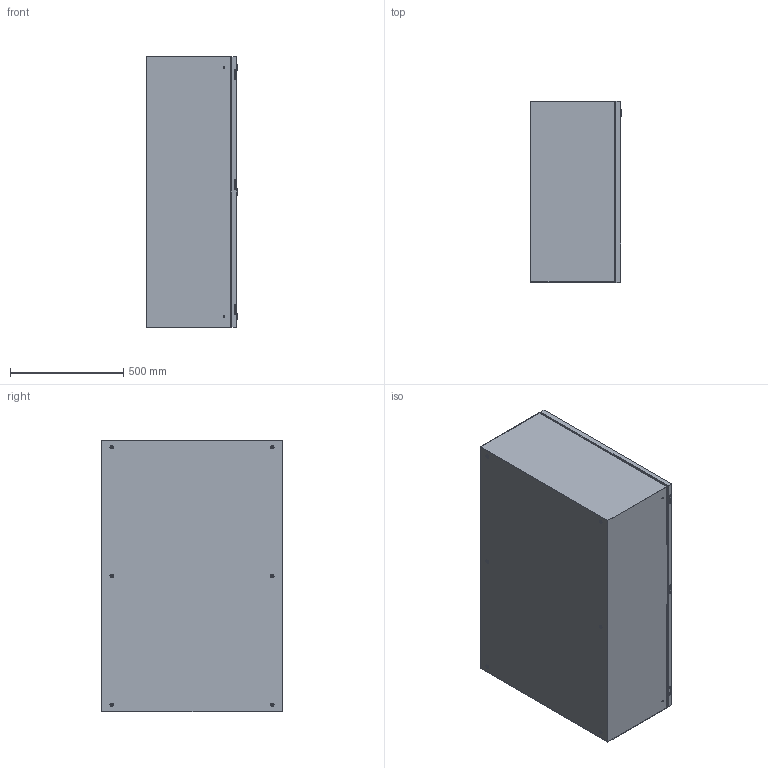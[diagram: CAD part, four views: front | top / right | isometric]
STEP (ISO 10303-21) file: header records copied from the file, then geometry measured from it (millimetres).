
FILE_DESCRIPTION(/* description */ ('Unknown'),/* implementation_level */ '2;1');
FILE_NAME(/* name */ 'CLA08012040',/* time_stamp */ '2024-09-04T08:44:39+02:00',/* author */ ('Unknown'),/* organization */ ('Unknown'),/* preprocessor_version */ 'ST-DEVELOPER v19.4',/* originating_system */ 'Solid Edge',/* authorisation */ 'Unknown');
FILE_SCHEMA (('AUTOMOTIVE_DESIGN {1 0 10303 214 3 1 1}'));
Length unit declared in the file: millimetre
Products named in the file (16): CLA08012040; C000X000.88_oa_0; C000X000.89_oa_1; C0000000.69; C0000000.82; AE00417.01; C0000000.02; AE00989.09; C000X000.63_oa_2; C0000000.45; C0000000.04; C0000000.05; AE00316.01; AE00601.01; AE00891.02; C0000000.01
Assembly tree (42 placements, depth 4):
  CLA08012040
    C000X000.88_oa_0
      C000X000.89_oa_1
        C0000000.69
        C0000000.82
        AE00417.01  x2
      C0000000.02  x3
      AE00989.09  x3
    C000X000.63_oa_2
      C0000000.45
      C0000000.04  x6
      C0000000.05  x6
      AE00316.01  x3
      AE00601.01  x3
      AE00891.02  x3
      C0000000.01  x3
      AE00417.01  x4
Bounding box: 405 x 800 x 1200 mm (x, y, z)
Volume: 8460979 mm3; surface area: 7324080.8 mm2
Topology: 42 solids, 42 shells, 891 faces, 2199 edges, 1430 vertices
Faces by surface type: plane 570, cylinder 234, cone 45, torus 42
Full cylindrical faces by diameter (mm): 4 x3, 4.917 x9, 4.918 x3, 5.4 x3, 6 x12, 6.4 x3, 7.5 x6, 8 x6, 8.376 x12, 10 x9, 10.25 x6, 11 x3, 13.6 x3, 14 x6, 15 x6, 16 x6, 16.3 x3, 19.5 x3, 28 x3
Entity records: 12214 total; most frequent: CARTESIAN_POINT 1889, DIRECTION 1844, ORIENTED_EDGE 1694, EDGE_CURVE 847, AXIS2_PLACEMENT_3D 619, LINE 606, VECTOR 606, VERTEX_POINT 579
